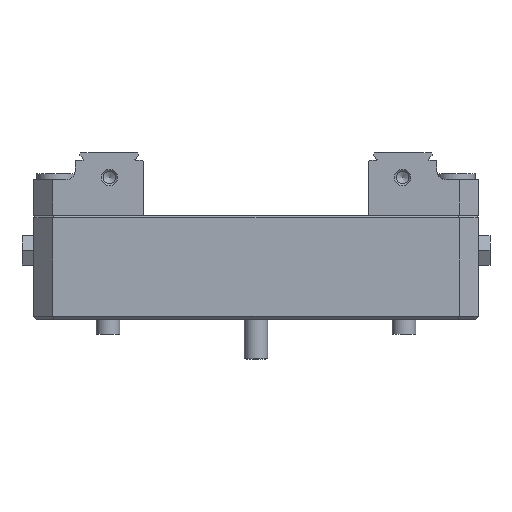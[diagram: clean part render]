
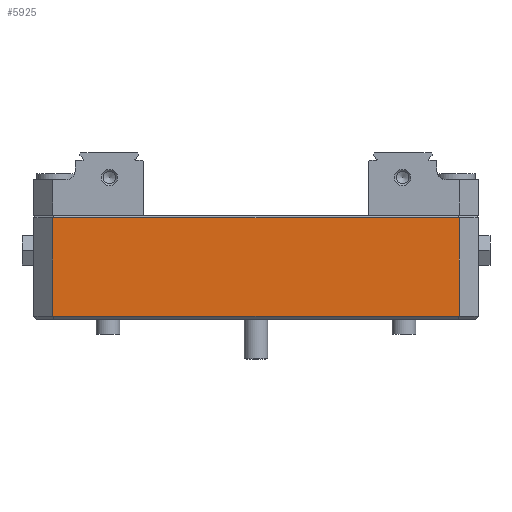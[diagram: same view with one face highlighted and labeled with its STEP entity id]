
A CAD part, top view. The second image highlights one B-rep face of the part: STEP entity #5925.
In plain terms, the highlighted planar face has unit normal (0, 0, 1) as drawn and (-1, 0, 0) by its records, which use the part's own axes.
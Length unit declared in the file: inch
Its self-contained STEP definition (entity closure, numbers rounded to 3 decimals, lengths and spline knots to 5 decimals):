
#486 = EDGE_LOOP ( 'NONE', ( #1384, #17228, #9479, #7781 ) ) ;
#1067 = CARTESIAN_POINT ( 'NONE',  ( -1.47638, 0.04, -2.70276 ) ) ;
#1196 = LINE ( 'NONE', #5235, #12726 ) ;
#1384 = ORIENTED_EDGE ( 'NONE', *, *, #11025, .T. ) ;
#1612 = DIRECTION ( 'NONE',  ( 0., 0., -1. ) ) ;
#1972 = FACE_OUTER_BOUND ( 'NONE', #486, .T. ) ;
#3731 = VERTEX_POINT ( 'NONE', #1067 ) ;
#4208 = VERTEX_POINT ( 'NONE', #15220 ) ;
#4763 = EDGE_CURVE ( 'NONE', #3731, #10233, #1196, .T. ) ;
#5235 = CARTESIAN_POINT ( 'NONE',  ( -1.47638, 0.04, 2.70276 ) ) ;
#5371 = LINE ( 'NONE', #10765, #14029 ) ;
#5416 = DIRECTION ( 'NONE',  ( 0., 0., 1. ) ) ;
#5925 = ADVANCED_FACE ( 'NONE', ( #1972 ), #6106, .F. ) ;
#6097 = EDGE_CURVE ( 'NONE', #4208, #6430, #15129, .T. ) ;
#6106 = PLANE ( 'NONE',  #8300 ) ;
#6369 = CARTESIAN_POINT ( 'NONE',  ( -1.47638, 0., 2.95276 ) ) ;
#6430 = VERTEX_POINT ( 'NONE', #8352 ) ;
#7781 = ORIENTED_EDGE ( 'NONE', *, *, #6097, .T. ) ;
#8300 = AXIS2_PLACEMENT_3D ( 'NONE', #6369, #11782, #10351 ) ;
#8352 = CARTESIAN_POINT ( 'NONE',  ( -1.47638, 1.34795, -2.70276 ) ) ;
#9479 = ORIENTED_EDGE ( 'NONE', *, *, #13612, .T. ) ;
#10233 = VERTEX_POINT ( 'NONE', #13901 ) ;
#10351 = DIRECTION ( 'NONE',  ( 0., 1., 0. ) ) ;
#10765 = CARTESIAN_POINT ( 'NONE',  ( -1.47638, 0., -2.70276 ) ) ;
#10858 = VECTOR ( 'NONE', #1612, 39.37008 ) ;
#11025 = EDGE_CURVE ( 'NONE', #6430, #3731, #5371, .T. ) ;
#11782 = DIRECTION ( 'NONE',  ( 1., 0., 0. ) ) ;
#12612 = LINE ( 'NONE', #15258, #16464 ) ;
#12726 = VECTOR ( 'NONE', #5416, 39.37008 ) ;
#13612 = EDGE_CURVE ( 'NONE', #10233, #4208, #12612, .T. ) ;
#13901 = CARTESIAN_POINT ( 'NONE',  ( -1.47638, 0.04, 2.70276 ) ) ;
#14029 = VECTOR ( 'NONE', #16342, 39.37008 ) ;
#14166 = DIRECTION ( 'NONE',  ( 0., 1., 0. ) ) ;
#15129 = LINE ( 'NONE', #15217, #10858 ) ;
#15217 = CARTESIAN_POINT ( 'NONE',  ( -1.47638, 1.34795, 2.95276 ) ) ;
#15220 = CARTESIAN_POINT ( 'NONE',  ( -1.47638, 1.34795, 2.70276 ) ) ;
#15258 = CARTESIAN_POINT ( 'NONE',  ( -1.47638, 1.38295, 2.70276 ) ) ;
#16342 = DIRECTION ( 'NONE',  ( 0., -1., 0. ) ) ;
#16464 = VECTOR ( 'NONE', #14166, 39.37008 ) ;
#17228 = ORIENTED_EDGE ( 'NONE', *, *, #4763, .T. ) ;
